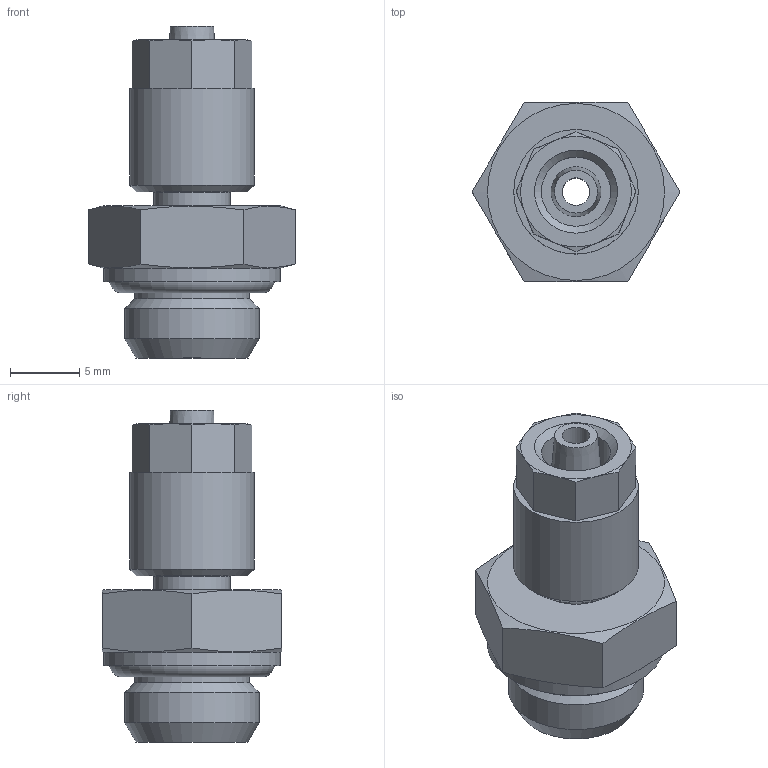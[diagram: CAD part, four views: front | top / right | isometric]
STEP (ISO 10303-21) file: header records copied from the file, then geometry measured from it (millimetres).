
FILE_DESCRIPTION(/* description */ (''),/* implementation_level */ '2;1');
FILE_NAME(/* name */ '10207_301Z_53_18_08.09.15',/* time_stamp */ '2015-09-08T11:36:34+02:00',/* author */ (''),/* organization */ (''),/* preprocessor_version */ 'ST-DEVELOPER v14',/* originating_system */ 'HiCAD 2013 1802.4 Build 509',/* authorisation */ '');
FILE_SCHEMA (('AUTOMOTIVE_DESIGN { 1 0 10303 214 1 1 1 1 }'));
Length unit declared in the file: millimetre
Products named in the file (4): Root; OR 7.2X1.9; 17003; R10207
Assembly tree (3 placements, depth 2):
  Root
    OR 7.2X1.9
    17003
    R10207
Bounding box: 15.01 x 13 x 24 mm (x, y, z)
Volume: 1635.1 mm3; surface area: 1908.5 mm2
Topology: 3 solids, 3 shells, 61 faces, 138 edges, 87 vertices
Faces by surface type: plane 24, cone 22, cylinder 11, torus 4
Full cylindrical faces by diameter (mm): 2 x1, 3.2 x1, 5 x2, 5.5 x1, 6.08 x1, 7 x1, 8.3 x1, 9 x1, 9.728 x1, 12.8 x1
Entity records: 2475 total; most frequent: DIRECTION 300, CARTESIAN_POINT 233, PRESENTATION_STYLE_ASSIGNMENT 191, COLOUR_RGB 190, DRAUGHTING_PRE_DEFINED_CURVE_FONT 188, CURVE_STYLE 188, OVER_RIDING_STYLED_ITEM 188, ORIENTED_EDGE 188
